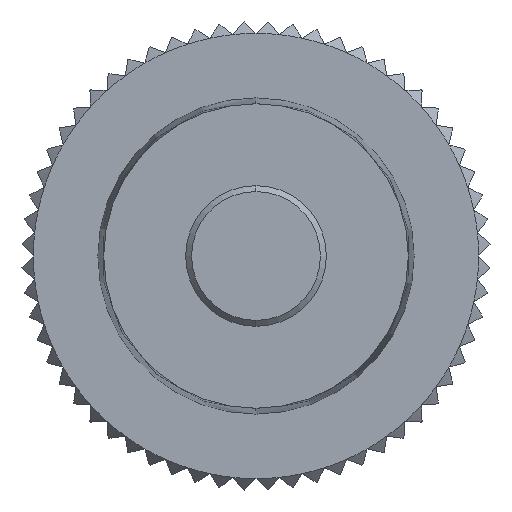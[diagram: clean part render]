
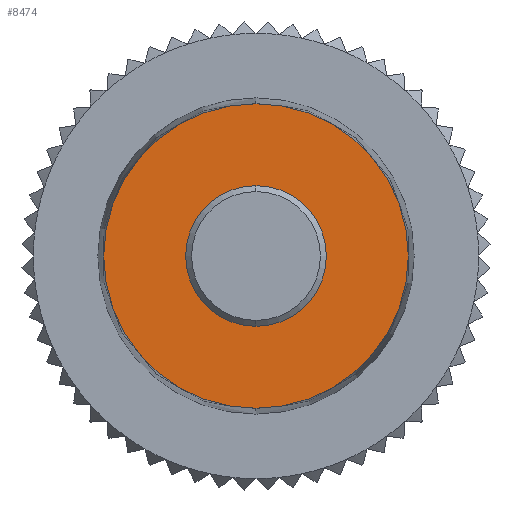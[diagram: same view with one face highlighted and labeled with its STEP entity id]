
A CAD part, front view. The second image highlights one B-rep face of the part: STEP entity #8474.
In plain terms, the highlighted planar face has unit normal (0, -1, 0).
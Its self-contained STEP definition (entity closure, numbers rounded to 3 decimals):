
#29 = EDGE_CURVE ( 'NONE', #182, #179, #2589, .T. ) ;
#105 = VERTEX_POINT ( 'NONE', #2705 ) ;
#122 = VERTEX_POINT ( 'NONE', #2739 ) ;
#178 = EDGE_CURVE ( 'NONE', #105, #122, #2895, .T. ) ;
#179 = VERTEX_POINT ( 'NONE', #2891 ) ;
#182 = VERTEX_POINT ( 'NONE', #2889 ) ;
#2581 = DIRECTION ( 'NONE',  ( 0., 0., -1. ) ) ;
#2582 = DIRECTION ( 'NONE',  ( 0., -1., 0. ) ) ;
#2583 = CARTESIAN_POINT ( 'NONE',  ( 0., 0., 0. ) ) ;
#2584 = AXIS2_PLACEMENT_3D ( 'NONE', #2583, #2582, #2581 ) ;
#2589 = CIRCLE ( 'NONE', #2584, 6.5 ) ;
#2705 = CARTESIAN_POINT ( 'NONE',  ( 0., 0., 3. ) ) ;
#2739 = CARTESIAN_POINT ( 'NONE',  ( 0., 0., -3. ) ) ;
#2889 = CARTESIAN_POINT ( 'NONE',  ( 0., 0., -6.5 ) ) ;
#2891 = CARTESIAN_POINT ( 'NONE',  ( 0., 0., 6.5 ) ) ;
#2892 = DIRECTION ( 'NONE',  ( 0., 0., -1. ) ) ;
#2893 = DIRECTION ( 'NONE',  ( 0., -1., 0. ) ) ;
#2894 = AXIS2_PLACEMENT_3D ( 'NONE', #2901, #2893, #2892 ) ;
#2895 = CIRCLE ( 'NONE', #2894, 3. ) ;
#2901 = CARTESIAN_POINT ( 'NONE',  ( 0., 0., 0. ) ) ;
#7464 = DIRECTION ( 'NONE',  ( 0., 0., -1. ) ) ;
#7465 = DIRECTION ( 'NONE',  ( 0., -1., 0. ) ) ;
#7466 = CARTESIAN_POINT ( 'NONE',  ( 0., 0., 0. ) ) ;
#7467 = AXIS2_PLACEMENT_3D ( 'NONE', #7466, #7465, #7464 ) ;
#7468 = CIRCLE ( 'NONE', #7467, 3. ) ;
#7487 = DIRECTION ( 'NONE',  ( 0., 0., -1. ) ) ;
#7488 = DIRECTION ( 'NONE',  ( 0., -1., 0. ) ) ;
#7489 = CARTESIAN_POINT ( 'NONE',  ( 0., 0., 0. ) ) ;
#7490 = AXIS2_PLACEMENT_3D ( 'NONE', #7489, #7488, #7487 ) ;
#7495 = PLANE ( 'NONE',  #7490 ) ;
#7496 = FACE_OUTER_BOUND ( 'NONE', #8458, .T. ) ;
#7499 = FACE_BOUND ( 'NONE', #8465, .T. ) ;
#7537 = CIRCLE ( 'NONE', #7587, 6.5 ) ;
#7584 = DIRECTION ( 'NONE',  ( 0., 0., -1. ) ) ;
#7585 = DIRECTION ( 'NONE',  ( 0., -1., 0. ) ) ;
#7586 = CARTESIAN_POINT ( 'NONE',  ( 0., 0., 0. ) ) ;
#7587 = AXIS2_PLACEMENT_3D ( 'NONE', #7586, #7585, #7584 ) ;
#8449 = ORIENTED_EDGE ( 'NONE', *, *, #178, .F. ) ;
#8458 = EDGE_LOOP ( 'NONE', ( #8499, #8496 ) ) ;
#8464 = EDGE_CURVE ( 'NONE', #122, #105, #7468, .T. ) ;
#8465 = EDGE_LOOP ( 'NONE', ( #8467, #8449 ) ) ;
#8467 = ORIENTED_EDGE ( 'NONE', *, *, #8464, .F. ) ;
#8474 = ADVANCED_FACE ( 'NONE', ( #7499, #7496 ), #7495, .T. ) ;
#8496 = ORIENTED_EDGE ( 'NONE', *, *, #29, .T. ) ;
#8499 = ORIENTED_EDGE ( 'NONE', *, *, #8502, .T. ) ;
#8502 = EDGE_CURVE ( 'NONE', #179, #182, #7537, .T. ) ;
